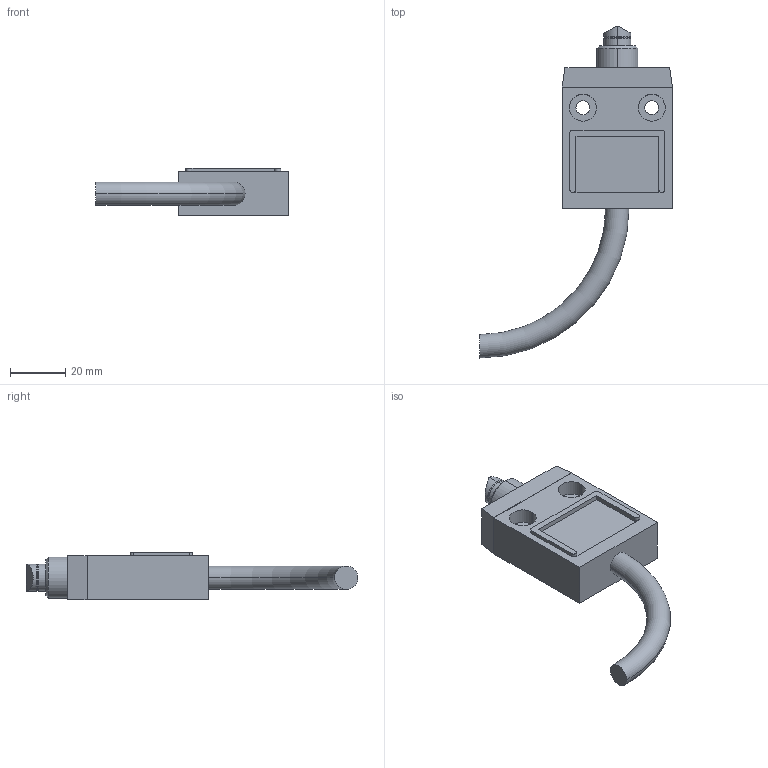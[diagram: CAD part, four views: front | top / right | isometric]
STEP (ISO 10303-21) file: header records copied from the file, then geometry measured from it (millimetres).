
FILE_DESCRIPTION (( 'STEP AP203' ), '1' );
FILE_NAME ('TZ-3110.STEP', '2019-05-24T13:54:52', ( '' ), ( '' ), 'SwSTEP 2.0', 'SolidWorks 2012', '' );
FILE_SCHEMA (( 'CONFIG_CONTROL_DESIGN' ));
Length unit declared in the file: millimetre
Products named in the file (1): TZ-3110
Bounding box: 70 x 120.5 x 17.3 mm (x, y, z)
Volume: 37110.1 mm3; surface area: 11520.3 mm2
Topology: 1 solids, 1 shells, 126 faces, 316 edges, 208 vertices
Faces by surface type: plane 79, cylinder 35, torus 10, cone 2
Entity records: 3905 total; most frequent: CARTESIAN_POINT 769, DIRECTION 632, ORIENTED_EDGE 632, EDGE_CURVE 316, AXIS2_PLACEMENT_3D 223, VERTEX_POINT 208, LINE 186, VECTOR 186
